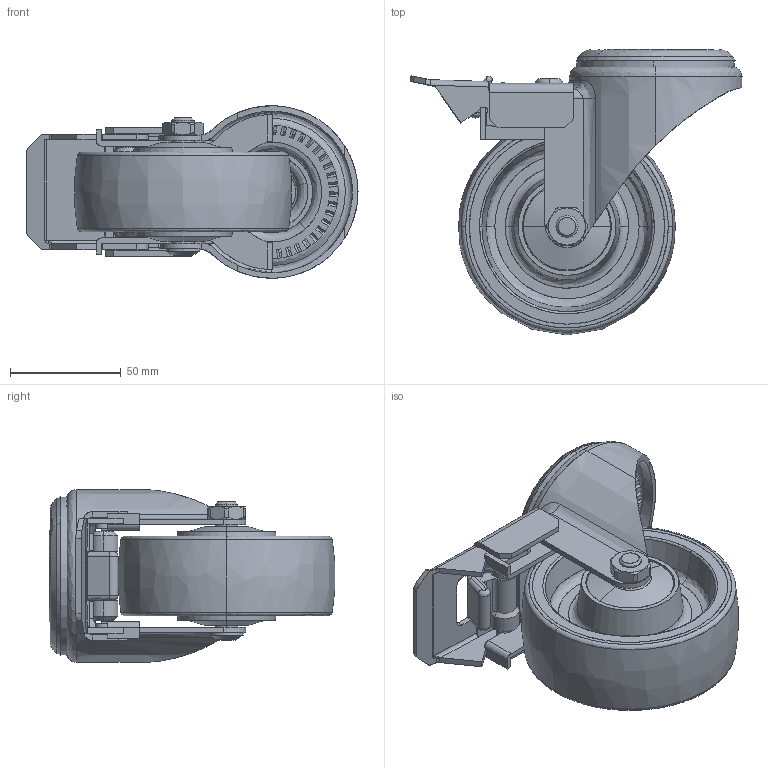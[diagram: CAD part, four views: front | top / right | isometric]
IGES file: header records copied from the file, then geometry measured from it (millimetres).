
Start section: SolidWorks IGES file using analytic representation for surfaces
Global section: file name: S:\Tyokansio\VL\LK\400530_IGES.IGS; native system: SolidWorks 2011; preprocessor: SolidWorks 2011; author: VilleLa; date: 110829.102328; units: millimetre
Bounding box: 149.66 x 128.86 x 77.8 mm (x, y, z)
Surface area: 99303.9 mm2 (no closed solid volume)
Topology: 0 solids, 0 shells, 541 faces, 8058 edges, 8056 vertices
Faces by surface type: bspline 333, revolution 208
